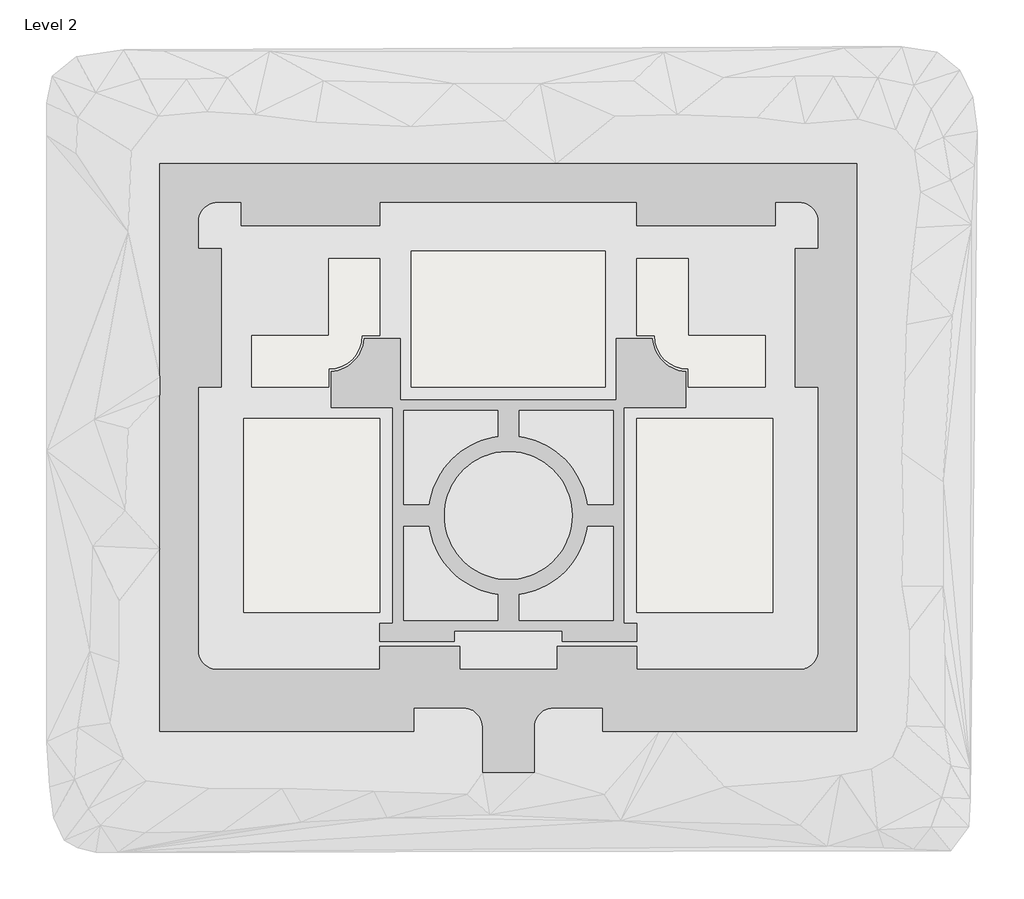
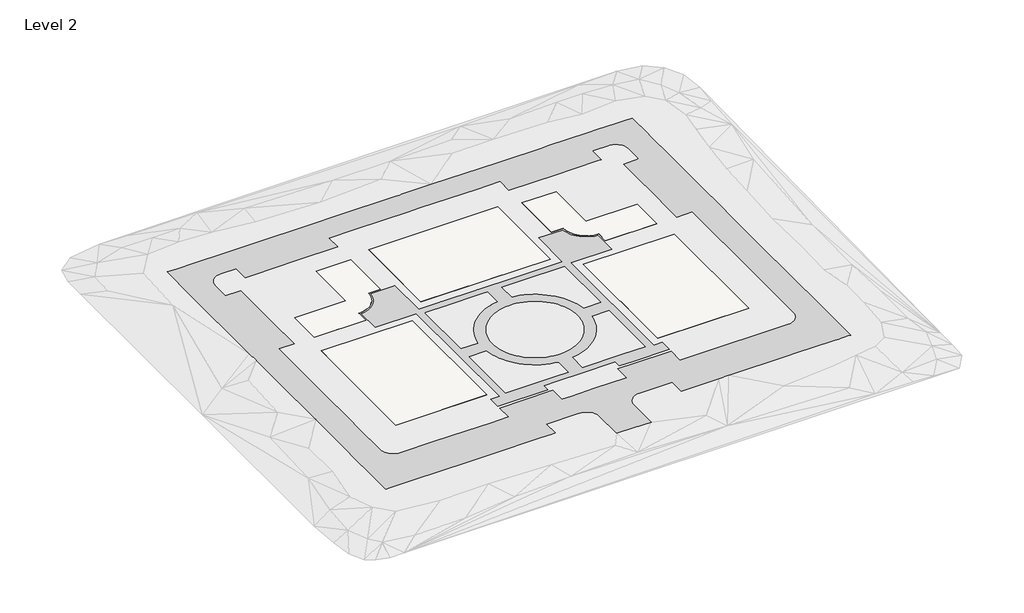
# One storey, part 1 of 2: 5 slabs, 2 proxies.
"""IFC4 building model written with IfcOpenShell, lengths in millimetres."""

from ifc_helpers import new_model, si_unit, point, frame, frame_2d, origin, place, context, project, spatial, polyline, circle_curve, trimmed, segment, composite_curve, outline, extrude, triangles, element, save

model = new_model("IFC4")

# Units and contexts
model_context = context("Model", 3, world=origin())
ifc_project = project(units=[si_unit("LENGTHUNIT", "METRE", prefix="MILLI")], contexts=[model_context])

# Site, building, storey
site = spatial("IfcSite", under=ifc_project)
building = spatial("IfcBuilding", under=site)
storey = spatial("IfcBuildingStorey", under=building, Name="Level 2", Elevation=3047.9999999)

# Proxies
placement = place(None, origin())
element("IfcBuildingElementProxy", 1, Name="Building Element Proxy", at=placement, inside=storey, context=model_context, shape_type="Tessellation", body=[
    triangles([(-96458.3541504, -141259.5265137, 3048.0), (-96458.3541504, -151927.5265137, 3048.0), (-90362.3541504, -151927.5265137, 3048.0), (-84266.3541504, -151927.5265137, 3048.0), (-84266.3541504, -141259.5265137, 3048.0), (-84219.8174561, -140608.8592529, 3048.0), (-84081.1561523, -139971.4376953, 3048.0), (-83853.1979736, -139360.2470947, 3048.0), (-83540.5658936, -138787.7145996, 3048.0), (-83149.640918, -138265.4953125, 3048.0), (-82688.3853516, -137804.2304443, 3048.0), (-82166.1660645, -137413.3147705, 3048.0), (-81593.6335693, -137100.6826904, 3048.0), (-80982.4429688, -136872.7245117, 3048.0), (-80345.0214111, -136734.0539063, 3048.0), (-79694.3541504, -136687.5265137, 3048.0), (-70630.3399658, -136687.5265137, 3048.0), (-67959.5588013, -136687.5265137, 3048.0), (-67959.5588013, -142173.9265137, 3048.0), (-54593.6723145, -142173.9265137, 3048.0), (-50988.4086548, -142173.9265137, 3048.0), (-30015.5818359, -142173.9265137, 3048.0), (-27380.2333923, -142173.9265137, 3048.0), (-14368.7717834, -142173.9265137, 3048.0), (-12021.3371613, -142173.9265137, 3048.0), (-8520.228772, -142173.9265137, 3048.0), (-7609.1582199, -142173.9265137, 3048.0), (-7609.1582199, -141262.8472412, 3048.0), (-7609.1582199, -135897.4445068, 3048.0), (-7609.1582199, -128757.108252, 3048.0), (-7609.1582199, -119744.5513916, 3048.0), (-7609.1582199, -109311.1696289, 3048.0), (-7609.1582199, -103111.0178467, 3048.0), (-7609.1582199, -88141.7269043, 3048.0), (-7609.1582199, -67102.3320557, 3048.0), (-7609.1582199, -63543.7213623, 3048.0), (-7609.1582199, -48692.6557617, 3048.0), (-7609.1582199, -45786.2285156, 3048.0), (-7609.1582199, -34925.2565735, 3048.0), (-7609.1582199, -29394.9894836, 3048.0), (-7609.1582199, -20175.2708496, 3048.0), (-7609.1582199, -15160.5374084, 3048.0), (-7609.1582199, -9469.011557, 3048.0), (-7609.1582199, -7452.3218628, 3048.0), (-9769.8966797, -7452.3218628, 3048.0), (-13137.2725342, -7452.3218628, 3048.0), (-20332.1054626, -7452.3218628, 3048.0), (-23395.2487244, -7452.3218628, 3048.0), (-37615.0575073, -7452.3218628, 3048.0), (-40375.0099731, -7452.3218628, 3048.0), (-52788.1732178, -7452.3218628, 3048.0), (-55510.2210205, -7452.3218628, 3048.0), (-79028.6831543, -7452.3218628, 3048.0), (-89744.5965088, -7452.3218628, 3048.0), (-90362.3541504, -7452.3218628, 3048.0), (-91818.4420166, -7452.3218628, 3048.0), (-112747.4808105, -7452.3218628, 3048.0), (-121728.1977539, -7452.3218628, 3048.0), (-142112.3953857, -7452.3218628, 3048.0), (-152868.4644287, -7452.3218628, 3048.0), (-163060.4655762, -7452.3218628, 3048.0), (-169916.8098633, -7452.3218628, 3048.0), (-173115.5541504, -7452.3218628, 3048.0), (-173115.5541504, -12340.9792786, 3048.0), (-173115.5541504, -16797.6432953, 3048.0), (-173115.5541504, -19343.470459, 3048.0), (-173115.5541504, -58140.023291, 3048.0), (-173115.5541504, -62355.6543457, 3048.0), (-173115.5541504, -78335.3859375, 3048.0), (-173115.5541504, -96485.831543, 3048.0), (-173115.5541504, -98940.6863525, 3048.0), (-173115.5541504, -118406.8004883, 3048.0), (-173115.5541504, -122301.5302002, 3048.0), (-173115.5541504, -133177.6942383, 3048.0), (-173115.5541504, -139265.5924072, 3048.0), (-173115.5541504, -142173.9265137, 3048.0), (-171062.6189941, -142173.9265137, 3048.0), (-161579.2164551, -142173.9265137, 3048.0), (-155924.3616211, -142173.9265137, 3048.0), (-141364.1619873, -142173.9265137, 3048.0), (-134914.7603027, -142173.9265137, 3048.0), (-118098.4844238, -142173.9265137, 3048.0), (-113948.1331055, -142173.9265137, 3048.0), (-112765.1541504, -142173.9265137, 3048.0), (-112765.1541504, -136687.5265137, 3048.0), (-101809.9809814, -136687.5265137, 3048.0), (-101030.3541504, -136687.5265137, 3048.0), (-100379.6961914, -136734.0539063, 3048.0), (-99742.2746338, -136872.7245117, 3048.0), (-99131.0840332, -137100.6826904, 3048.0), (-98978.0329102, -137184.2496826, 3048.0), (-98558.5515381, -137413.3147705, 3048.0), (-98036.332251, -137804.2304443, 3048.0), (-97575.0673828, -138265.4953125, 3048.0), (-97184.1424072, -138787.7145996, 3048.0), (-96871.5196289, -139360.2470947, 3048.0), (-96643.5521484, -139971.4376953, 3048.0), (-96504.8908447, -140608.8592529, 3048.0), (-120842.3541504, -16596.3218628, 3048.0), (-111973.5931641, -16596.3218628, 3048.0), (-92323.0716797, -16596.3218628, 3048.0), (-88392.1767334, -16596.3218628, 3048.0), (-68080.4816528, -16596.3218628, 3048.0), (-59882.3588013, -16596.3218628, 3048.0), (-59882.3588013, -22082.7218628, 3048.0), (-43016.1185303, -22082.7218628, 3048.0), (-36760.488739, -22082.7218628, 3048.0), (-27869.6965393, -22082.7218628, 3048.0), (-26963.9588013, -22082.7218628, 3048.0), (-26963.9588013, -17204.3033569, 3048.0), (-26963.9588013, -16596.3218628, 3048.0), (-21325.1588013, -16596.3218628, 3048.0), (-20674.493866, -16642.8585571, 3048.0), (-20037.0769592, -16781.5198608, 3048.0), (-19425.880545, -17009.4838531, 3048.0), (-18853.3480499, -17322.1112823, 3048.0), (-18331.1345764, -17713.0350952, 3048.0), (-17869.870871, -18174.2988007, 3048.0), (-17478.9470581, -18696.5122742, 3048.0), (-17166.3207916, -19269.0447693, 3048.0), (-16938.3556366, -19880.2400208, 3048.0), (-16799.6943329, -20517.6592529, 3048.0), (-16753.1576385, -21168.3218628, 3048.0), (-16753.1576385, -26553.1513184, 3048.0), (-16753.1576385, -27569.1218628, 3048.0), (-22239.5588013, -27569.1218628, 3048.0), (-22239.5588013, -28669.615155, 3048.0), (-22239.5588013, -35337.7267456, 3048.0), (-22239.5588013, -46411.753125, 3048.0), (-22239.5588013, -54882.9383789, 3048.0), (-22239.5588013, -60487.5218628, 3048.0), (-16753.1576385, -60487.5218628, 3048.0), (-16753.1576385, -98657.3269043, 3048.0), (-16753.1576385, -111345.1664063, 3048.0), (-16753.1576385, -122722.3696289, 3048.0), (-16753.1576385, -122971.5265137, 3048.0), (-16799.6943329, -123622.1844727, 3048.0), (-16938.3556366, -124259.6060303, 3048.0), (-17166.3207916, -124870.7966309, 3048.0), (-17478.9470581, -125443.329126, 3048.0), (-17869.870871, -125965.5484131, 3048.0), (-18331.1345764, -126426.8132813, 3048.0), (-18853.3480499, -126817.7289551, 3048.0), (-19425.880545, -127130.3610352, 3048.0), (-19872.0754028, -127296.7787842, 3048.0), (-20037.0769592, -127358.3192139, 3048.0), (-20674.493866, -127496.9898193, 3048.0), (-21325.1588013, -127543.5265137, 3048.0), (-34741.3910522, -127543.5265137, 3048.0), (-41871.5883911, -127543.5265137, 3048.0), (-59882.3588013, -127543.5265137, 3048.0), (-59882.3588013, -122057.1265137, 3048.0), (-72794.2171875, -122057.1265137, 3048.0), (-78779.9541504, -122057.1265137, 3048.0), (-78779.9541504, -127543.5265137, 3048.0), (-90362.3541504, -127543.5265137, 3048.0), (-98445.9909668, -127543.5265137, 3048.0), (-101944.7541504, -127543.5265137, 3048.0), (-101944.7541504, -122057.1265137, 3048.0), (-103048.1844727, -122057.1265137, 3048.0), (-120842.3541504, -122057.1265137, 3048.0), (-120842.3541504, -127543.5265137, 3048.0), (-127508.0124023, -127543.5265137, 3048.0), (-135716.2462646, -127543.5265137, 3048.0), (-147842.1479736, -127543.5265137, 3048.0), (-159399.5541504, -127543.5265137, 3048.0), (-160050.2307129, -127496.9898193, 3048.0), (-160687.6429688, -127358.3192139, 3048.0), (-161298.8428711, -127130.3610352, 3048.0), (-161871.3660645, -126817.7289551, 3048.0), (-162393.5853516, -126426.8132813, 3048.0), (-162854.840918, -125965.5484131, 3048.0), (-163245.7751953, -125443.329126, 3048.0), (-163558.3886719, -124870.7966309, 3048.0), (-163786.3561523, -124259.6060303, 3048.0), (-163925.0267578, -123622.1844727, 3048.0), (-163971.5541504, -122971.5265137, 3048.0), (-163971.5541504, -109289.2825928, 3048.0), (-163971.5541504, -104079.330835, 3048.0), (-163971.5541504, -88201.2767578, 3048.0), (-163971.5541504, -60487.5218628, 3048.0), (-158485.1541504, -60487.5218628, 3048.0), (-158485.1541504, -46724.2270752, 3048.0), (-158485.1541504, -34220.483313, 3048.0), (-158485.1541504, -27569.1218628, 3048.0), (-163971.5541504, -27569.1218628, 3048.0), (-163971.5541504, -21168.3218628, 3048.0), (-163925.0267578, -20517.6592529, 3048.0), (-163786.3561523, -19880.2400208, 3048.0), (-163558.3886719, -19269.0447693, 3048.0), (-163245.7751953, -18696.5122742, 3048.0), (-162854.840918, -18174.2988007, 3048.0), (-162393.5853516, -17713.0350952, 3048.0), (-161871.3660645, -17322.1112823, 3048.0), (-161298.8428711, -17009.4838531, 3048.0), (-160687.6429688, -16781.5198608, 3048.0), (-160050.2307129, -16642.8585571, 3048.0), (-159399.5541504, -16596.3218628, 3048.0), (-153760.7541504, -16596.3218628, 3048.0), (-153760.7541504, -22082.7218628, 3048.0), (-151061.086377, -22082.7218628, 3048.0), (-135421.6781982, -22082.7218628, 3048.0), (-120842.3541504, -22082.7218628, 3048.0)], [[75, 76, 77], [75, 77, 78], [78, 74, 75], [169, 74, 78], [167, 78, 166], [78, 79, 166], [165, 79, 80], [164, 80, 81], [164, 165, 80], [163, 164, 81], [163, 82, 162], [79, 165, 166], [174, 175, 73], [174, 73, 74], [73, 176, 177], [176, 73, 175], [72, 73, 177], [74, 173, 174], [167, 168, 78], [173, 74, 172], [171, 74, 170], [74, 171, 172], [168, 169, 78], [74, 169, 170], [163, 81, 82], [85, 83, 84], [85, 82, 83], [9, 156, 95], [156, 94, 95], [2, 3, 1], [1, 3, 5], [6, 97, 98], [5, 98, 1], [96, 97, 7], [3, 4, 5], [95, 96, 8], [85, 86, 158], [162, 160, 161], [158, 86, 87], [158, 87, 88], [158, 160, 162], [88, 157, 158], [162, 85, 158], [92, 93, 157], [91, 92, 157], [89, 90, 157], [157, 90, 91], [93, 156, 157], [89, 157, 88], [93, 94, 156], [85, 162, 82], [71, 72, 178], [70, 71, 179], [68, 69, 181], [67, 68, 181], [70, 180, 69], [179, 180, 70], [69, 180, 181], [67, 186, 66], [186, 67, 183], [183, 67, 181], [178, 179, 71], [177, 178, 72], [66, 186, 187], [189, 65, 66], [188, 66, 187], [64, 65, 192], [63, 64, 62], [193, 62, 64], [188, 189, 66], [192, 65, 191], [191, 65, 190], [62, 193, 61], [64, 192, 193], [193, 194, 61], [61, 194, 195], [190, 65, 189], [186, 184, 185], [198, 61, 197], [197, 61, 196], [186, 183, 184], [159, 160, 158], [59, 201, 202], [199, 200, 201], [181, 182, 183], [99, 202, 203], [99, 58, 202], [201, 59, 199], [198, 199, 60], [59, 60, 199], [59, 202, 58], [99, 57, 58], [60, 61, 198], [56, 100, 101], [55, 101, 102], [56, 57, 100], [54, 55, 102], [56, 101, 55], [102, 53, 54], [100, 57, 99], [196, 61, 195], [98, 5, 6], [96, 7, 8], [156, 10, 11], [10, 156, 9], [9, 95, 8], [20, 18, 19], [21, 151, 20], [13, 156, 12], [21, 22, 150], [12, 156, 11], [14, 15, 155], [13, 14, 155], [155, 16, 17], [154, 155, 153], [155, 15, 16], [156, 13, 155], [153, 17, 18], [150, 22, 149], [21, 150, 151], [152, 153, 151], [151, 18, 20], [153, 18, 151], [17, 153, 155], [22, 23, 149], [148, 24, 147], [146, 147, 24], [24, 145, 146], [24, 144, 145], [148, 23, 24], [28, 25, 26], [28, 26, 27], [29, 144, 24], [143, 144, 29], [29, 24, 25], [25, 28, 29], [142, 29, 30], [143, 29, 142], [142, 30, 141], [140, 30, 139], [139, 30, 138], [30, 140, 141], [136, 137, 31], [135, 136, 31], [33, 134, 32], [31, 32, 134], [134, 135, 31], [138, 30, 137], [137, 30, 31], [148, 149, 23], [134, 33, 133], [50, 106, 107], [104, 105, 106], [108, 109, 110], [108, 110, 107], [110, 111, 107], [128, 129, 38], [125, 127, 128], [127, 125, 126], [37, 129, 130], [52, 53, 103], [52, 103, 104], [51, 52, 104], [51, 104, 106], [50, 51, 106], [107, 111, 49], [113, 114, 47], [49, 111, 48], [112, 47, 48], [47, 112, 113], [111, 112, 48], [114, 115, 47], [49, 50, 107], [130, 131, 132], [53, 102, 103], [39, 128, 38], [124, 125, 40], [130, 132, 37], [124, 41, 123], [41, 122, 123], [132, 34, 35], [35, 36, 132], [38, 129, 37], [39, 40, 125], [39, 125, 128], [36, 37, 132], [133, 33, 34], [40, 41, 124], [119, 120, 42], [118, 119, 42], [116, 117, 46], [115, 116, 46], [118, 46, 117], [41, 42, 120], [41, 121, 122], [42, 46, 118], [45, 46, 43], [43, 44, 45], [46, 42, 43], [120, 121, 41], [115, 46, 47], [133, 34, 132], [7, 97, 6]], closed=False),
])
element("IfcBuildingElementProxy", 2, Name="Building Element Proxy", at=placement, inside=storey, context=model_context, shape_type="Tessellation", body=[
    triangles([(-115965.5541504, -63535.5218628, 3048.0), (-115965.5541504, -48905.1218628, 3048.0), (-124521.7574707, -48905.1218628, 3048.0), (-124628.057959, -49768.622644, 3048.0), (-124821.7112549, -50616.8173828, 3048.0), (-125100.7174805, -51440.8880127, 3048.0), (-125462.1744873, -52232.2676147, 3048.0), (-125902.3150635, -52982.7380859, 3048.0), (-126416.5813477, -53684.4999023, 3048.0), (-126999.6248291, -54330.255835, 3048.0), (-127645.3807617, -54913.2946655, 3048.0), (-128347.1425781, -55427.5609497, 3048.0), (-129097.6083984, -55867.7061768, 3048.0), (-129888.9926514, -56229.1631836, 3048.0), (-130713.0632813, -56508.1694092, 3048.0), (-131561.2533691, -56701.827356, 3048.0), (-132424.7541504, -56808.1231934, 3048.0), (-132424.7541504, -65364.3218628, 3048.0), (-117794.3541504, -65364.3218628, 3048.0), (-117794.3541504, -116570.7265137, 3048.0), (-120842.3541504, -116570.7265137, 3048.0), (-120842.3541504, -120837.9265137, 3048.0), (-103163.9541504, -120837.9265137, 3048.0), (-103163.9541504, -120689.163501, 3048.0), (-103163.9541504, -118399.5265137, 3048.0), (-97941.352002, -118399.5265137, 3048.0), (-90362.3541504, -118399.5265137, 3048.0), (-77560.7588013, -118399.5265137, 3048.0), (-77560.7588013, -120837.9265137, 3048.0), (-72974.5410645, -120837.9265137, 3048.0), (-59882.3588013, -120837.9265137, 3048.0), (-59882.3588013, -116570.7265137, 3048.0), (-62930.3588013, -116570.7265137, 3048.0), (-62930.3588013, -65364.3218628, 3048.0), (-48299.9588013, -65364.3218628, 3048.0), (-48299.9588013, -56808.1231934, 3048.0), (-49163.4595825, -56701.827356, 3048.0), (-50011.6543213, -56508.1694092, 3048.0), (-50835.7249512, -56229.1631836, 3048.0), (-51627.1045532, -55867.7061768, 3048.0), (-52377.5750244, -55427.5609497, 3048.0), (-53079.3368408, -54913.2946655, 3048.0), (-53725.0881226, -54330.255835, 3048.0), (-54308.131604, -53684.4999023, 3048.0), (-54822.3978882, -52982.7380859, 3048.0), (-55262.5431152, -52232.2676147, 3048.0), (-55624.0001221, -51440.8880127, 3048.0), (-55903.0063477, -50616.8173828, 3048.0), (-56096.6642944, -49768.622644, 3048.0), (-56202.9601318, -48905.1218628, 3048.0), (-64759.1588013, -48905.1218628, 3048.0), (-64759.1588013, -63535.5218628, 3048.0), (-81449.735376, -63535.5218628, 3048.0), (-94913.5368164, -63535.5218628, 3048.0), (-108001.017041, -63535.5218628, 3048.0), (-92800.7541504, -65973.9218628, 3048.0), (-92800.7541504, -72227.8982666, 3048.0), (-94158.9968262, -72455.2332275, 3048.0), (-95422.7708496, -72762.7958496, 3048.0), (-95497.073291, -72780.8784668, 3048.0), (-96807.877002, -73203.1038574, 3048.0), (-98084.4595459, -73719.6676758, 3048.0), (-99320.0213379, -74327.8259033, 3048.0), (-100508.0232422, -75024.3508301, 3048.0), (-101642.1493652, -75805.5403564, 3048.0), (-102716.3628662, -76667.2505493, 3048.0), (-103724.9803711, -77604.900293, 3048.0), (-104662.6254639, -78613.5177979, 3048.0), (-105524.3403076, -79687.7312988, 3048.0), (-106305.529834, -80821.8574219, 3048.0), (-106508.6988281, -81168.3851074, 3048.0), (-107002.0547607, -82009.8500244, 3048.0), (-107610.2129883, -83245.4211182, 3048.0), (-108126.7768066, -84522.0036621, 3048.0), (-108549.0021973, -85832.807373, 3048.0), (-108874.6474365, -87170.8838379, 3048.0), (-109101.9823975, -88529.1265137, 3048.0), (-115355.9541504, -88529.1265137, 3048.0), (-115355.9541504, -65973.9218628, 3048.0), (-107794.6482422, -65973.9218628, 3048.0), (-95048.1053467, -65973.9218628, 3048.0), (-92800.7541504, -115961.1265137, 3048.0), (-97806.7834717, -115961.1265137, 3048.0), (-103564.1064697, -115961.1265137, 3048.0), (-115355.9541504, -115961.1265137, 3048.0), (-115355.9541504, -93405.9265137, 3048.0), (-109101.9823975, -93405.9265137, 3048.0), (-108874.6474365, -94764.1598877, 3048.0), (-108549.0021973, -96102.2363525, 3048.0), (-108126.7768066, -97413.0400635, 3048.0), (-107610.2129883, -98689.6226074, 3048.0), (-107002.0547607, -99925.1937012, 3048.0), (-106305.529834, -101113.1863037, 3048.0), (-105524.3403076, -102247.3124268, 3048.0), (-104662.6254639, -103321.5259277, 3048.0), (-104630.9436768, -103355.6168701, 3048.0), (-103724.9803711, -104330.1434326, 3048.0), (-102716.3628662, -105267.7978271, 3048.0), (-101642.1493652, -106129.5033691, 3048.0), (-100508.0232422, -106910.6928955, 3048.0), (-99320.0213379, -107607.2178223, 3048.0), (-98084.4595459, -108215.3760498, 3048.0), (-97394.7156006, -108494.475293, 3048.0), (-96807.877002, -108731.9398682, 3048.0), (-95497.073291, -109154.1652588, 3048.0), (-94158.9968262, -109479.810498, 3048.0), (-92800.7541504, -109707.145459, 3048.0), (-105602.3541504, -90967.5265137, 3048.0), (-105552.9432129, -89741.2106689, 3048.0), (-105405.0080566, -88522.8571289, 3048.0), (-105159.5067627, -87320.3537842, 3048.0), (-104818.0578369, -86141.5048096, 3048.0), (-104382.8471924, -84993.9469482, 3048.0), (-103856.7118652, -83885.14021, 3048.0), (-103243.0562988, -82822.2655518, 3048.0), (-102545.8616455, -81812.2062744, 3048.0), (-101769.6578613, -80861.5294189, 3048.0), (-100919.4771973, -79976.392749, 3048.0), (-100000.8262939, -79162.544751, 3048.0), (-99019.6675781, -78425.2502197, 3048.0), (-97982.3541504, -77769.2949097, 3048.0), (-96895.6297852, -77198.9390259, 3048.0), (-95766.5359131, -76717.8753662, 3048.0), (-95638.683252, -76675.1895996, 3048.0), (-94602.3930176, -76329.2246704, 3048.0), (-93410.754126, -76035.5123657, 3048.0), (-92199.3396973, -75838.6406616, 3048.0), (-90976.0097168, -75739.879248, 3048.0), (-89748.7078857, -75739.879248, 3048.0), (-88525.3779053, -75838.6406616, 3048.0), (-87313.9634766, -76035.5123657, 3048.0), (-86122.324585, -76329.2246704, 3048.0), (-84958.1816895, -76717.8753662, 3048.0), (-83829.0878174, -77198.9390259, 3048.0), (-82742.3541504, -77769.2949097, 3048.0), (-81705.0500244, -78425.2502197, 3048.0), (-80723.8913086, -79162.544751, 3048.0), (-79805.2404053, -79976.392749, 3048.0), (-78955.0504395, -80861.5294189, 3048.0), (-78872.1438721, -80963.076709, 3048.0), (-78178.8466553, -81812.2062744, 3048.0), (-77481.6613037, -82822.2655518, 3048.0), (-76868.0103882, -83885.14021, 3048.0), (-76341.8704102, -84993.9469482, 3048.0), (-75906.6644165, -86141.5048096, 3048.0), (-75565.206189, -87320.3537842, 3048.0), (-75319.7141968, -88522.8571289, 3048.0), (-75171.7743896, -89741.2106689, 3048.0), (-75122.3588013, -90967.5265137, 3048.0), (-75171.7743896, -92193.8330566, 3048.0), (-75319.7141968, -93412.1865967, 3048.0), (-75565.206189, -94614.6899414, 3048.0), (-75906.6644165, -95793.538916, 3048.0), (-76341.8704102, -96941.0967773, 3048.0), (-76469.2486816, -97209.5362061, 3048.0), (-76868.0103882, -98049.9035156, 3048.0), (-77481.6613037, -99112.7781738, 3048.0), (-78178.8466553, -100122.8374512, 3048.0), (-78955.0504395, -101073.5143066, 3048.0), (-79805.2404053, -101958.6509766, 3048.0), (-80723.8913086, -102772.4989746, 3048.0), (-81705.0500244, -103509.7935059, 3048.0), (-82742.3541504, -104165.7534668, 3048.0), (-83829.0878174, -104736.1093506, 3048.0), (-84958.1816895, -105217.1683594, 3048.0), (-86122.324585, -105605.8144043, 3048.0), (-87313.9634766, -105899.5360107, 3048.0), (-88525.3779053, -106096.4077148, 3048.0), (-89748.7078857, -106195.1644775, 3048.0), (-90976.0097168, -106195.1644775, 3048.0), (-92199.3396973, -106096.4077148, 3048.0), (-93410.754126, -105899.5360107, 3048.0), (-94602.3930176, -105605.8144043, 3048.0), (-95766.5359131, -105217.1683594, 3048.0), (-96895.6297852, -104736.1093506, 3048.0), (-97179.0915527, -104587.3370361, 3048.0), (-97982.3541504, -104165.7534668, 3048.0), (-99019.6675781, -103509.7935059, 3048.0), (-100000.8262939, -102772.4989746, 3048.0), (-100919.4771973, -101958.6509766, 3048.0), (-101769.6578613, -101073.5143066, 3048.0), (-102545.8616455, -100122.8374512, 3048.0), (-103243.0562988, -99112.7781738, 3048.0), (-103856.7118652, -98049.9035156, 3048.0), (-104382.8471924, -96941.0967773, 3048.0), (-104818.0578369, -95793.538916, 3048.0), (-105159.5067627, -94614.6899414, 3048.0), (-105405.0080566, -93412.1865967, 3048.0), (-105552.9432129, -92193.8330566, 3048.0), (-87923.9541504, -65973.9218628, 3048.0), (-81089.0876221, -65973.9218628, 3048.0), (-65368.7588013, -65973.9218628, 3048.0), (-65368.7588013, -88529.1265137, 3048.0), (-71622.7352051, -88529.1265137, 3048.0), (-71850.070166, -87170.8838379, 3048.0), (-72175.7154053, -85832.807373, 3048.0), (-72597.9407959, -84522.0036621, 3048.0), (-73114.5046143, -83245.4211182, 3048.0), (-73722.6628418, -82009.8500244, 3048.0), (-74419.1877686, -80821.8574219, 3048.0), (-75200.3772949, -79687.7312988, 3048.0), (-76062.0874878, -78613.5177979, 3048.0), (-76999.7372314, -77604.900293, 3048.0), (-78008.3500854, -76667.2505493, 3048.0), (-79082.5682373, -75805.5403564, 3048.0), (-79697.6190674, -75381.8917969, 3048.0), (-80216.6943604, -75024.3508301, 3048.0), (-81404.6869629, -74327.8259033, 3048.0), (-82640.2580566, -73719.6676758, 3048.0), (-83916.8406006, -73203.1038574, 3048.0), (-85227.6443115, -72780.8784668, 3048.0), (-86565.7207764, -72455.2332275, 3048.0), (-87923.9541504, -72227.8982666, 3048.0), (-87923.9541504, -115961.1265137, 3048.0), (-87923.9541504, -109707.145459, 3048.0), (-86565.7207764, -109479.810498, 3048.0), (-85227.6443115, -109154.1652588, 3048.0), (-83916.8406006, -108731.9398682, 3048.0), (-82640.2580566, -108215.3760498, 3048.0), (-81404.6869629, -107607.2178223, 3048.0), (-80216.6943604, -106910.6928955, 3048.0), (-79082.5682373, -106129.5033691, 3048.0), (-78008.3500854, -105267.7978271, 3048.0), (-76999.7372314, -104330.1434326, 3048.0), (-76062.0874878, -103321.5259277, 3048.0), (-75642.6107666, -102798.599707, 3048.0), (-75200.3772949, -102247.3124268, 3048.0), (-74419.1877686, -101113.1863037, 3048.0), (-73722.6628418, -99925.1937012, 3048.0), (-73114.5046143, -98689.6226074, 3048.0), (-72597.9407959, -97413.0400635, 3048.0), (-72175.7154053, -96102.2363525, 3048.0), (-71850.070166, -94764.1598877, 3048.0), (-71622.7352051, -93405.9265137, 3048.0), (-65368.7588013, -93405.9265137, 3048.0), (-65368.7588013, -115961.1265137, 3048.0), (-73695.8365723, -115961.1265137, 3048.0)], [[22, 20, 21], [20, 22, 85], [85, 86, 20], [20, 86, 19], [186, 89, 90], [185, 90, 91], [22, 23, 85], [94, 183, 93], [95, 182, 94], [184, 92, 183], [185, 91, 184], [183, 92, 93], [184, 91, 92], [95, 96, 181], [186, 90, 185], [108, 87, 189], [86, 87, 78], [78, 87, 77], [109, 77, 108], [77, 110, 76], [87, 108, 77], [87, 88, 188], [188, 189, 87], [187, 88, 89], [188, 88, 187], [109, 110, 77], [76, 111, 75], [110, 111, 76], [186, 187, 89], [112, 75, 111], [86, 78, 19], [84, 25, 83], [25, 84, 85], [25, 85, 24], [177, 100, 101], [102, 176, 101], [24, 85, 23], [26, 83, 25], [83, 26, 82], [171, 172, 107], [26, 27, 82], [174, 103, 104], [173, 104, 105], [106, 172, 105], [175, 102, 103], [107, 172, 106], [180, 97, 98], [179, 180, 98], [183, 94, 182], [180, 181, 97], [95, 181, 182], [98, 99, 179], [96, 97, 181], [176, 102, 175], [174, 104, 173], [103, 174, 175], [178, 179, 99], [100, 177, 178], [99, 100, 178], [101, 176, 177], [105, 172, 173], [19, 78, 79], [113, 73, 74], [1, 79, 55], [16, 17, 18], [13, 18, 19], [1, 19, 79], [1, 10, 19], [72, 114, 71], [114, 72, 73], [54, 55, 80], [55, 79, 80], [115, 69, 70], [70, 71, 115], [74, 75, 112], [15, 16, 18], [14, 15, 18], [13, 19, 12], [11, 19, 10], [19, 11, 12], [14, 18, 13], [9, 1, 8], [6, 7, 2], [1, 7, 8], [4, 5, 2], [2, 3, 4], [5, 6, 2], [10, 1, 9], [7, 1, 2], [116, 69, 115], [115, 71, 114], [117, 67, 68], [116, 117, 68], [67, 118, 66], [69, 116, 68], [114, 73, 113], [117, 118, 67], [66, 119, 65], [118, 119, 66], [64, 120, 121], [62, 122, 123], [63, 121, 122], [65, 119, 120], [61, 123, 124], [63, 122, 62], [121, 63, 64], [125, 60, 61], [125, 59, 60], [61, 62, 123], [65, 120, 64], [59, 126, 58], [58, 126, 57], [57, 126, 127], [54, 80, 81], [54, 81, 56], [213, 56, 57], [54, 56, 190], [57, 127, 128], [59, 125, 126], [124, 125, 61], [112, 113, 74], [107, 82, 215], [214, 215, 82], [169, 107, 215], [107, 169, 170], [167, 215, 216], [169, 215, 168], [217, 167, 216], [107, 170, 171], [214, 28, 237], [214, 27, 28], [220, 164, 219], [220, 221, 163], [219, 165, 218], [218, 166, 217], [222, 162, 221], [168, 215, 167], [166, 218, 165], [164, 220, 163], [219, 164, 165], [217, 166, 167], [162, 222, 161], [161, 223, 160], [163, 221, 162], [160, 223, 224], [159, 160, 224], [227, 157, 158], [158, 159, 226], [225, 159, 224], [222, 223, 161], [28, 29, 30], [82, 27, 214], [228, 157, 227], [227, 158, 226], [230, 155, 156], [229, 156, 157], [228, 229, 157], [230, 156, 229], [226, 159, 225], [236, 31, 33], [31, 236, 30], [31, 32, 33], [237, 30, 236], [155, 230, 154], [236, 33, 235], [28, 30, 237], [154, 230, 231], [154, 231, 153], [152, 153, 232], [195, 146, 147], [147, 148, 194], [152, 233, 151], [233, 234, 151], [234, 235, 193], [151, 234, 150], [150, 234, 149], [195, 147, 194], [149, 234, 194], [234, 193, 194], [149, 194, 148], [33, 34, 235], [233, 152, 232], [231, 232, 153], [205, 136, 137], [207, 135, 136], [211, 131, 132], [209, 133, 134], [210, 132, 133], [134, 135, 208], [202, 139, 140], [201, 141, 142], [202, 140, 141], [138, 139, 203], [203, 204, 138], [203, 139, 202], [138, 204, 137], [142, 143, 199], [137, 204, 205], [129, 130, 213], [129, 213, 57], [190, 56, 213], [213, 130, 131], [212, 213, 131], [211, 212, 131], [57, 128, 129], [134, 208, 209], [207, 208, 135], [210, 133, 209], [132, 210, 211], [53, 190, 191], [191, 192, 53], [136, 206, 207], [136, 205, 206], [198, 144, 197], [197, 144, 145], [198, 199, 143], [141, 201, 202], [142, 200, 201], [199, 200, 142], [198, 143, 144], [197, 145, 196], [146, 196, 145], [52, 53, 192], [43, 52, 34], [34, 52, 192], [34, 35, 40], [192, 193, 34], [36, 37, 35], [193, 235, 34], [146, 195, 196], [46, 47, 51], [46, 51, 52], [50, 51, 49], [48, 49, 51], [51, 47, 48], [52, 45, 46], [39, 40, 35], [37, 38, 35], [39, 35, 38], [45, 52, 44], [43, 34, 42], [52, 43, 44], [42, 34, 41], [34, 40, 41], [53, 54, 190]], closed=False),
])

# Slabs
element("IfcSlab", 3, ObjectType="Pad 1", at=placement, inside=storey, context=model_context, shape_type="SweptSolid", body=[
    extrude(outline(polyline([(-153151.158026, -67955.1218987), (-120842.358026, -67955.1218987), (-120842.358026, -113979.9218987), (-153151.158026, -113979.9218987), (-153151.158026, -67955.1218987)])), frame((0.0, 0.0, 2743.2), z_axis=(0.0, 0.0, 1.0), x_axis=(1.0, 0.0, 0.0)), (0.0, 0.0, 1.0), 304.8),
])
element("IfcSlab", 4, ObjectType="Pad 1", at=placement, inside=storey, context=model_context, shape_type="SweptSolid", body=[
    extrude(outline(polyline([(-67349.958026, -28178.7218987), (-67349.958026, -60487.5218987), (-113374.758026, -60487.5218987), (-113374.758026, -28178.7218987), (-67349.958026, -28178.7218987)])), frame((0.0, 0.0, 2743.2), z_axis=(0.0, 0.0, 1.0), x_axis=(1.0, 0.0, 0.0)), (0.0, 0.0, 1.0), 304.8),
])
element("IfcSlab", 5, ObjectType="Pad 1", at=placement, inside=storey, context=model_context, shape_type="SweptSolid", body=[
    extrude(outline(polyline([(-27573.558026, -113979.9218987), (-59882.358026, -113979.9218987), (-59882.358026, -67955.1218987), (-27573.558026, -67955.1218987), (-27573.558026, -113979.9218987)])), frame((0.0, 0.0, 2743.2), z_axis=(0.0, 0.0, 1.0), x_axis=(1.0, 0.0, 0.0)), (0.0, 0.0, 1.0), 304.8),
])
element("IfcSlab", 6, ObjectType="Pad 1", at=placement, inside=storey, context=model_context, shape_type="SweptSolid", body=[
    extrude(outline(composite_curve([segment(polyline([(-120842.358026, -30007.5218987), (-120842.358026, -48295.5218987), (-125109.558026, -48295.5218987)]), True, "CONTINUOUS"), segment(trimmed(circle_curve(frame_2d((-133034.358026, -48295.5218987)), 7924.8), [point((-125109.558026, -48295.5218987))], [point((-133034.358026, -56220.3218987))], False, "CARTESIAN"), True, "CONTINUOUS"), segment(polyline([(-133034.358026, -56220.3218987), (-133034.358026, -60487.5218987), (-151322.358026, -60487.5218987), (-151322.358026, -48295.5218987), (-133034.358026, -48295.5218987), (-133034.358026, -30007.5218987), (-120842.358026, -30007.5218987)]), True, "CONTINUOUS")], self_intersect=False)), frame((0.0, 0.0, 2743.2), z_axis=(0.0, 0.0, 1.0), x_axis=(1.0, 0.0, 0.0)), (0.0, 0.0, 1.0), 304.8),
])
element("IfcSlab", 7, ObjectType="Pad 1", at=placement, inside=storey, context=model_context, shape_type="SweptSolid", body=[
    extrude(outline(composite_curve([segment(polyline([(-59882.358026, -30007.5218987), (-47690.358026, -30007.5218987), (-47690.358026, -48295.5218987), (-29402.358026, -48295.5218987), (-29402.358026, -60487.5218987), (-47690.358026, -60487.5218987), (-47690.358026, -56220.3218987)]), True, "CONTINUOUS"), segment(trimmed(circle_curve(frame_2d((-47690.358026, -48295.5218987)), 7924.8), [point((-47690.358026, -56220.3218987))], [point((-55615.158026, -48295.5218987))], False, "CARTESIAN"), True, "CONTINUOUS"), segment(polyline([(-55615.158026, -48295.5218987), (-59882.358026, -48295.5218987), (-59882.358026, -30007.5218987)]), True, "CONTINUOUS")], self_intersect=False)), frame((0.0, 0.0, 2743.2), z_axis=(0.0, 0.0, 1.0), x_axis=(1.0, 0.0, 0.0)), (0.0, 0.0, 1.0), 304.8),
])

save(model, "model.ifc")
